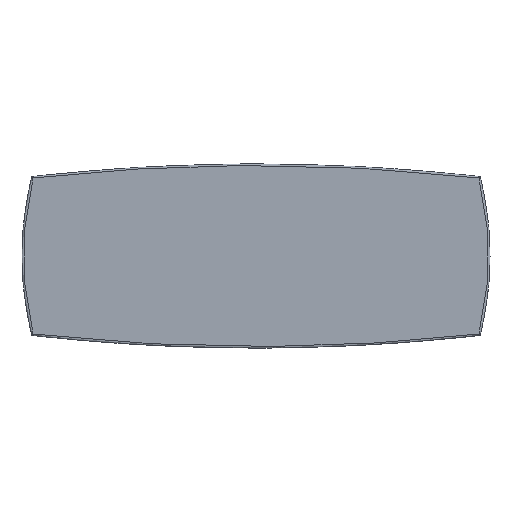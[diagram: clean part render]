
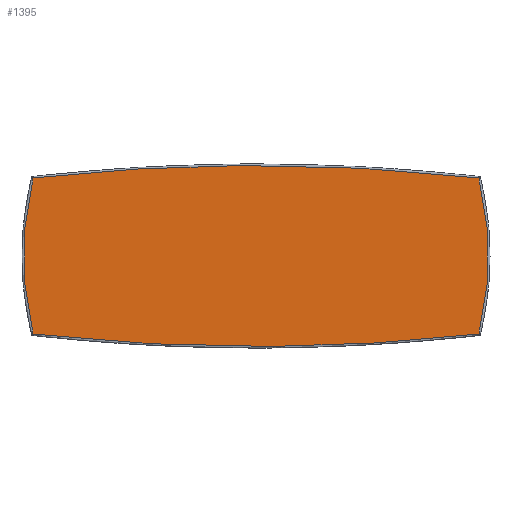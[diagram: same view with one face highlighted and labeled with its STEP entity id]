
A CAD part, top view. The second image highlights one B-rep face of the part: STEP entity #1395.
In plain terms, the highlighted planar face has unit normal (0, 0, 1).
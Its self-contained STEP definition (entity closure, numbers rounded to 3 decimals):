
#1395=ADVANCED_FACE('',(#2174),#10027,.T.);
#2174=FACE_OUTER_BOUND('',#2953,.T.);
#2953=EDGE_LOOP('',(#3804,#3805,#3806,#3807));
#3804=ORIENTED_EDGE('',*,*,#7012,.T.);
#3805=ORIENTED_EDGE('',*,*,#7015,.T.);
#3806=ORIENTED_EDGE('',*,*,#7006,.T.);
#3807=ORIENTED_EDGE('',*,*,#7009,.T.);
#7006=EDGE_CURVE('',#9080,#9079,#8609,.T.);
#7009=EDGE_CURVE('',#9079,#9077,#8612,.T.);
#7012=EDGE_CURVE('',#9077,#9078,#8615,.T.);
#7015=EDGE_CURVE('',#9078,#9080,#8618,.T.);
#8609=(
BOUNDED_CURVE()
B_SPLINE_CURVE(2,(#12122,#12123,#12124),.UNSPECIFIED.,.F.,.F.)
B_SPLINE_CURVE_WITH_KNOTS((3,3),(6.903,1017.329),
 .UNSPECIFIED.)
CURVE()
GEOMETRIC_REPRESENTATION_ITEM()
RATIONAL_B_SPLINE_CURVE((1.,0.97,1.))
REPRESENTATION_ITEM('')
);
#8612=(
BOUNDED_CURVE()
B_SPLINE_CURVE(2,(#12131,#12132,#12133),.UNSPECIFIED.,.F.,.F.)
B_SPLINE_CURVE_WITH_KNOTS((3,3),(6.917,2868.993),
 .UNSPECIFIED.)
CURVE()
GEOMETRIC_REPRESENTATION_ITEM()
RATIONAL_B_SPLINE_CURVE((1.,0.994,1.))
REPRESENTATION_ITEM('')
);
#8615=(
BOUNDED_CURVE()
B_SPLINE_CURVE(2,(#12140,#12141,#12142),.UNSPECIFIED.,.F.,.F.)
B_SPLINE_CURVE_WITH_KNOTS((3,3),(6.903,1017.329),
 .UNSPECIFIED.)
CURVE()
GEOMETRIC_REPRESENTATION_ITEM()
RATIONAL_B_SPLINE_CURVE((1.,0.97,1.))
REPRESENTATION_ITEM('')
);
#8618=(
BOUNDED_CURVE()
B_SPLINE_CURVE(2,(#12149,#12150,#12151),.UNSPECIFIED.,.F.,.F.)
B_SPLINE_CURVE_WITH_KNOTS((3,3),(6.917,2868.993),
 .UNSPECIFIED.)
CURVE()
GEOMETRIC_REPRESENTATION_ITEM()
RATIONAL_B_SPLINE_CURVE((1.,0.994,1.))
REPRESENTATION_ITEM('')
);
#9077=VERTEX_POINT('',#12072);
#9078=VERTEX_POINT('',#12073);
#9079=VERTEX_POINT('',#12074);
#9080=VERTEX_POINT('',#12075);
#10027=PLANE('',#10840);
#10840=AXIS2_PLACEMENT_3D('',#11870,#11343,$);
#11343=DIRECTION('',(0.,0.,1.));
#11870=CARTESIAN_POINT('',(-7229.082,885.835,745.026));
#12072=CARTESIAN_POINT('',(-3926.021,1123.221,745.026));
#12073=CARTESIAN_POINT('',(-3926.021,2123.45,745.026));
#12074=CARTESIAN_POINT('',(-6782.143,1123.221,745.026));
#12075=CARTESIAN_POINT('',(-6782.143,2123.45,745.026));
#12122=CARTESIAN_POINT('',(-6782.143,2123.45,745.026));
#12123=CARTESIAN_POINT('',(-6907.951,1623.335,745.026));
#12124=CARTESIAN_POINT('',(-6782.143,1123.221,745.026));
#12131=CARTESIAN_POINT('',(-6782.143,1123.221,745.026));
#12132=CARTESIAN_POINT('',(-5354.082,962.948,745.026));
#12133=CARTESIAN_POINT('',(-3926.021,1123.221,745.026));
#12140=CARTESIAN_POINT('',(-3926.021,1123.221,745.026));
#12141=CARTESIAN_POINT('',(-3800.213,1623.335,745.026));
#12142=CARTESIAN_POINT('',(-3926.021,2123.45,745.026));
#12149=CARTESIAN_POINT('',(-3926.021,2123.45,745.026));
#12150=CARTESIAN_POINT('',(-5354.082,2283.722,745.026));
#12151=CARTESIAN_POINT('',(-6782.143,2123.45,745.026));
